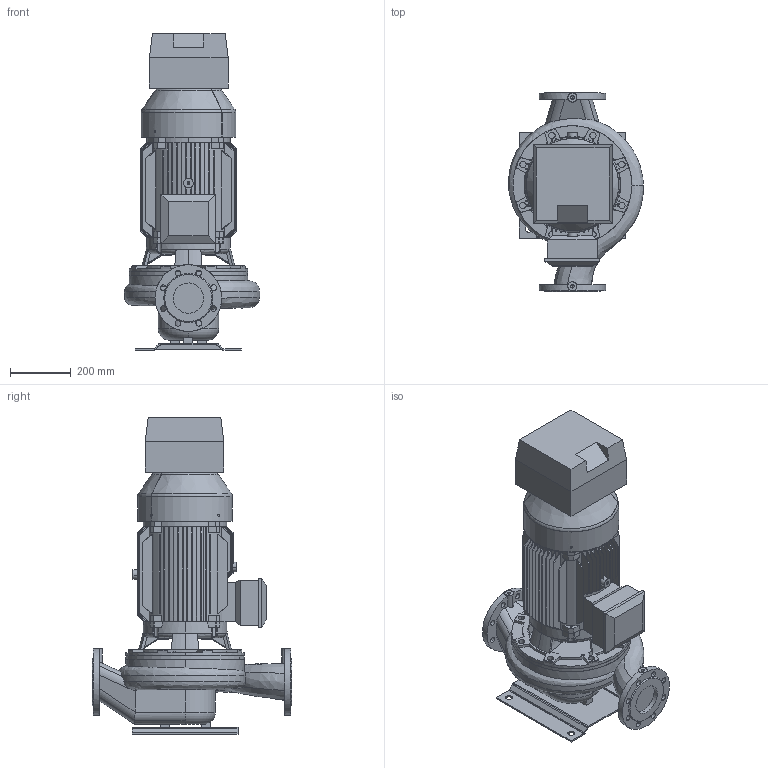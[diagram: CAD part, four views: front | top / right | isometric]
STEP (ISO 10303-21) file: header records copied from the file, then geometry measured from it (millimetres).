
FILE_DESCRIPTION(('STEP AP214'),'1');
FILE_NAME('export.stp','2018-08-08T13:06:22',(' '),(' '),'Spatial InterOp 3D',' ',' ');
FILE_SCHEMA(('AUTOMOTIVE_DESIGN { 1 0 10303 214 1 1 1 1 }'));
Length unit declared in the file: millimetre
Products named in the file (12): V_MKP166G2F31; R200366; R200574; R200573; R200587; W_L100S4NC150KP; V_TLL100SAL1202; V_PPL100S; P100496; P100495; P100342; NC_Size2
Assembly tree (12 placements, depth 3):
  W_L100S4NC150KP
    V_MKP166G2F31
      R200366
      R200574
      R200573
      R200587
    V_TLL100SAL1202
    V_PPL100S
    P100496
      P100495  x2
      P100342
    NC_Size2
Bounding box: 446.38 x 660 x 1047 mm (x, y, z)
Volume: 43908865.6 mm3; surface area: 4046993.7 mm2
Topology: 10 solids, 10 shells, 1855 faces, 5329 edges, 3474 vertices
Faces by surface type: plane 1241, cylinder 346, cone 184, torus 46, bspline 38
Entity records: 98366 total; most frequent: CARTESIAN_POINT 19155, ORIENTED_EDGE 10614, DIRECTION 9365, EDGE_CURVE 5307, STYLED_ITEM 4950, PRESENTATION_STYLE_ASSIGNMENT 4950, COLOUR_RGB 4950, LINE 3497
